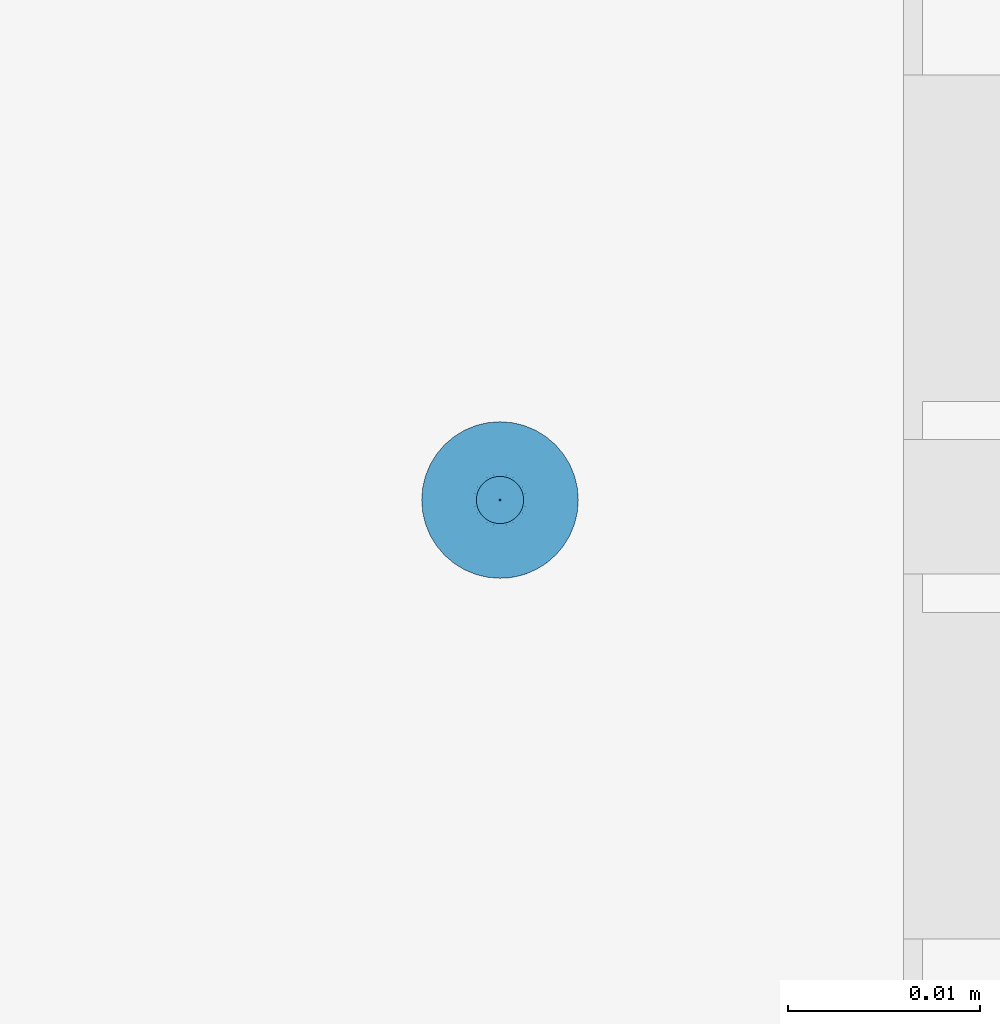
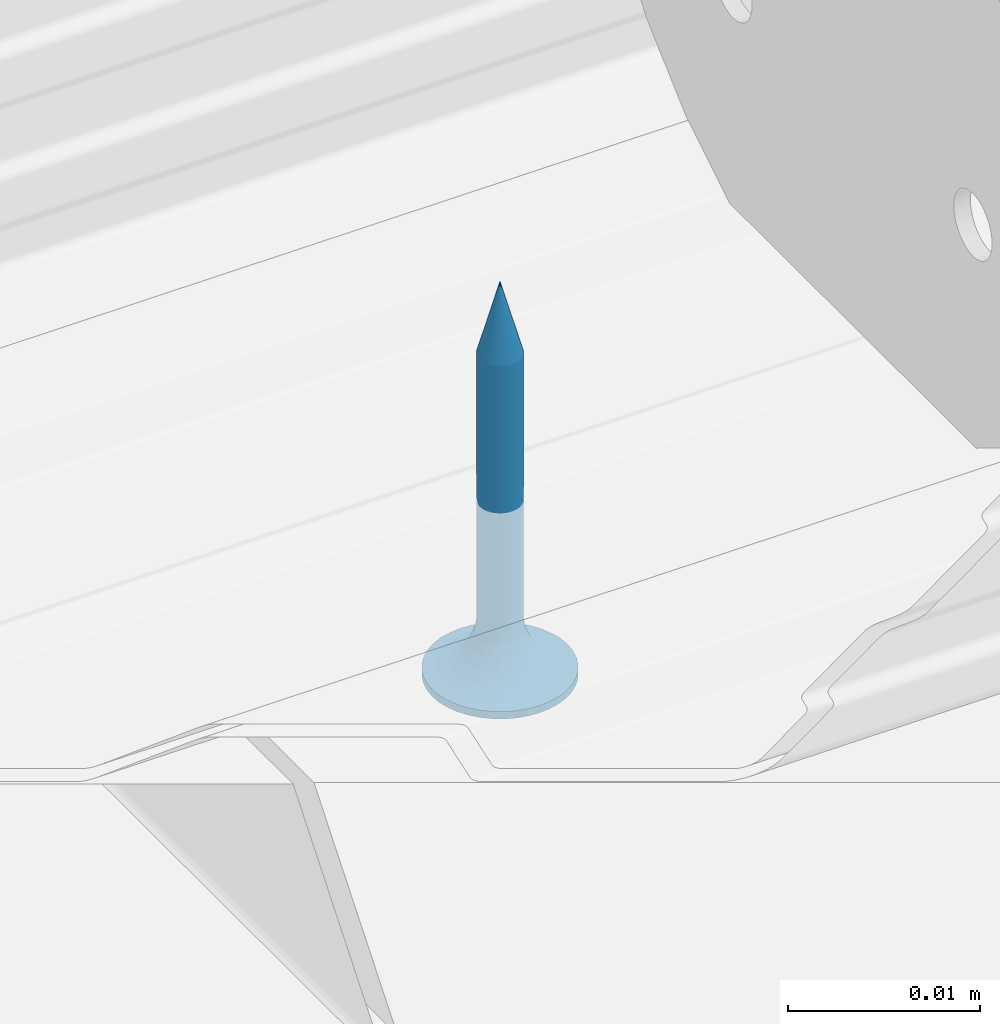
# One storey, part 58 of 73: 1 slab.
"""IFC2X3 building model written with IfcOpenShell, lengths in millimetres."""

from ifc_helpers import new_model, entity, si_unit, converted_unit, direction, frame, origin, origin_with_axes, place, context, project, spatial, faceted_brep, element, save


model = new_model("IFC2X3")

# Units and contexts
model_context = context("Model", 3, precision=1e-05, world=origin(), true_north=direction((0.0, 1.0, 0.0)))
ifc_project = project(units=[si_unit("LENGTHUNIT", "METRE", prefix="MILLI"), si_unit("AREAUNIT", "SQUARE_METRE"), si_unit("VOLUMEUNIT", "CUBIC_METRE"), converted_unit("PLANEANGLEUNIT", "DEGREE", entity("IfcPlaneAngleMeasure", 0.01745), si_unit("PLANEANGLEUNIT", "RADIAN"), dimensions=[0, 0, 0, 0, 0, 0, 0]), si_unit("SOLIDANGLEUNIT", "STERADIAN"), si_unit("MASSUNIT", "GRAM"), si_unit("TIMEUNIT", "SECOND"), si_unit("THERMODYNAMICTEMPERATUREUNIT", "DEGREE_CELSIUS"), si_unit("LUMINOUSINTENSITYUNIT", "LUMEN")], contexts=[model_context])

# Site, building, storey
site_placement = place(None, origin_with_axes())
site = spatial("IfcSite", under=ifc_project, at=site_placement, Name="Default Site", CompositionType="ELEMENT")
building_placement = place(site_placement, origin_with_axes())
building = spatial("IfcBuilding", under=site, at=building_placement, Name="Default Building", CompositionType="ELEMENT")
storey_placement = place(building_placement, origin_with_axes())
storey = spatial("IfcBuildingStorey", under=building, at=storey_placement, Name="Default Building Storey", CompositionType="ELEMENT", Elevation=0.0)

# Slab
slab_placement = place(storey_placement, frame((3076.910091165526, 462.0263716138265, 4373.006162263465), z_axis=(0.0, 1.0, 2.220446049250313e-16), x_axis=(-1.0, -1.802054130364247e-31, 8.115730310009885e-16)))
element("IfcSlab", 1, at=slab_placement, inside=storey, Name="Wkręt RIGIPS TN 25", context=model_context, shape_type="Brep", body=[
    faceted_brep([(-138.4548091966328, -3387.475459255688, 555.0766594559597), (-138.3293964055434, -3387.475459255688, 554.929819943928), (-138.3293964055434, -3370.55807436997, 554.929819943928), (-138.4548091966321, -3370.55807436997, 555.0766594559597), (-137.83949897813, -3370.55807436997, 554.6296104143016), (-137.8394989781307, -3387.475459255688, 554.6296104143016), (-137.6517277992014, -3387.475459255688, 554.5845305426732), (-137.6517277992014, -3370.55807436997, 554.5845305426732), (-137.4592163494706, -3370.55807436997, 554.5693795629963), (-137.4592163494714, -3387.475459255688, 554.5693795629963), (-137.2667048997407, -3387.475459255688, 554.5845305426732), (-137.2667048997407, -3370.55807436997, 554.5845305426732), (-136.7358758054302, -3370.55807436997, 556.7955928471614), (-136.7358758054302, -3387.475459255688, 556.7955928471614), (-136.9005263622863, -3387.475459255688, 556.8964908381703), (-136.9005263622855, -3370.55807436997, 556.8964908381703), (-138.1825568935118, -3370.55807436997, 554.804407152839), (-138.1825568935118, -3387.475459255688, 554.804407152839), (-138.0179063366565, -3387.475459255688, 554.7035091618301), (-138.0179063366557, -3370.55807436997, 554.7035091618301), (-137.2667048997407, -3370.55807436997, 557.0154694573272), (-137.2667048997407, -3387.475459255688, 557.0154694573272), (-137.4592163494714, -3387.475459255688, 557.0306204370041), (-137.4592163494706, -3370.55807436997, 557.0306204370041), (-137.6517277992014, -3387.475459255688, 557.0154694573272), (-137.6517277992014, -3370.55807436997, 557.0154694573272), (-136.4636235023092, -3370.55807436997, 555.0766594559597), (-136.5890362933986, -3370.55807436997, 554.929819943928), (-136.5890362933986, -3387.475459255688, 554.929819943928), (-136.4636235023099, -3387.475459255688, 555.0766594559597), (-136.2437468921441, -3370.55807436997, 555.6074885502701), (-136.2888267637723, -3370.55807436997, 555.4197173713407), (-136.2888267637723, -3387.475459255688, 555.4197173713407), (-136.2437468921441, -3387.475459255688, 555.6074885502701), (-138.0179063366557, -3370.55807436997, 556.8964908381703), (-138.0179063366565, -3387.475459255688, 556.8964908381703), (-138.1825568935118, -3387.475459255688, 556.7955928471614), (-138.1825568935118, -3370.55807436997, 556.7955928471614), (-138.5557071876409, -3387.475459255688, 555.2413100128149), (-138.5557071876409, -3370.55807436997, 555.2413100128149), (-136.2285959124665, -3370.55807436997, 555.8000000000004), (-136.2285959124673, -3387.475459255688, 555.8000000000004), (-136.9005263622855, -3370.55807436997, 554.7035091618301), (-136.9005263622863, -3387.475459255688, 554.7035091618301), (-136.7358758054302, -3387.475459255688, 554.804407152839), (-136.7358758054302, -3370.55807436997, 554.804407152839), (-138.6898367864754, -3387.475459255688, 555.8000000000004), (-138.6746858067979, -3387.475459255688, 555.6074885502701), (-138.6746858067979, -3370.55807436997, 555.6074885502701), (-138.6898367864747, -3370.55807436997, 555.8000000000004), (-137.83949897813, -3370.55807436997, 556.9703895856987), (-137.8394989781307, -3387.475459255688, 556.9703895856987), (-136.5890362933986, -3370.55807436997, 556.6701800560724), (-136.5890362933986, -3387.475459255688, 556.6701800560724), (-138.6296059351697, -3387.475459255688, 555.4197173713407), (-138.6296059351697, -3370.55807436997, 555.4197173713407), (-136.3627255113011, -3370.55807436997, 555.2413100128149), (-136.3627255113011, -3387.475459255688, 555.2413100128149), (-136.2437468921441, -3370.55807436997, 555.9925114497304), (-136.2437468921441, -3387.475459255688, 555.9925114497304), (-137.078933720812, -3387.475459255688, 554.6296104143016), (-137.0789337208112, -3370.55807436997, 554.6296104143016), (-138.6746858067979, -3387.475459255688, 555.9925114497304), (-138.6746858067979, -3370.55807436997, 555.9925114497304), (-138.6296059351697, -3387.475459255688, 556.1802826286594), (-138.6296059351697, -3370.55807436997, 556.1802826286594), (-136.4636235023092, -3370.55807436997, 556.5233405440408), (-136.4636235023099, -3387.475459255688, 556.5233405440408), (-136.3627255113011, -3370.55807436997, 556.3586899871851), (-136.3627255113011, -3387.475459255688, 556.3586899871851), (-138.3293964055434, -3387.475459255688, 556.6701800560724), (-138.3293964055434, -3370.55807436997, 556.6701800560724), (-136.2888267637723, -3370.55807436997, 556.1802826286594), (-136.2888267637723, -3387.475459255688, 556.1802826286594), (-137.078933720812, -3387.475459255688, 556.9703895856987), (-137.0789337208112, -3370.55807436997, 556.9703895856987), (-138.4548091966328, -3387.475459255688, 556.5233405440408), (-138.4548091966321, -3370.55807436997, 556.5233405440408), (-138.5557071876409, -3387.475459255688, 556.3586899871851), (-138.5557071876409, -3370.55807436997, 556.3586899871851), (-141.5377463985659, -3390.556721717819, 555.8000000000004), (-141.5377463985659, -3391.020944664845, 555.8000000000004), (-141.4875329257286, -3391.020944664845, 555.1619773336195), (-141.4875329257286, -3390.556721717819, 555.1619773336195), (-141.338128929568, -3391.020944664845, 554.5396649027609), (-141.338128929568, -3390.556721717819, 554.5396649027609), (-141.0932132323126, -3391.020944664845, 553.9483861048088), (-141.0932132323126, -3390.556721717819, 553.9483861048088), (-140.7588164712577, -3391.020944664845, 553.4027001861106), (-140.7588164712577, -3390.556721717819, 553.4027001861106), (-140.3431726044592, -3391.020944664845, 552.9160437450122), (-140.4541727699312, -3390.556721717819, 553.0314907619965), (-140.1080097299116, -3390.556721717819, 552.6986614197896), (-139.8565161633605, -3391.020944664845, 552.5003998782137), (-139.7251262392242, -3390.556721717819, 552.4088262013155), (-139.3108302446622, -3391.020944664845, 552.1660031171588), (-139.3108302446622, -3390.556721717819, 552.1660031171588), (-138.8708651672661, -3390.556721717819, 551.9735584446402), (-138.7195514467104, -3391.020944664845, 551.9210874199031), (-138.4113302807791, -3390.556721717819, 551.8341600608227), (-137.9385961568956, -3390.556721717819, 551.7497404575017), (-138.0972390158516, -3391.020944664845, 551.7716834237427), (-137.4592163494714, -3391.020944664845, 551.7214699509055), (-137.4592163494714, -3390.556721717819, 551.7214699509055), (-136.8211936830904, -3391.020944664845, 551.7716834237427), (-136.8211936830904, -3390.556721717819, 551.7716834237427), (-136.1988812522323, -3391.020944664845, 551.9210874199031), (-136.1988812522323, -3390.556721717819, 551.9210874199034), (-135.6076024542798, -3391.020944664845, 552.1660031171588), (-135.6076024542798, -3390.556721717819, 552.1660031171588), (-135.0619165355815, -3391.020944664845, 552.5003998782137), (-135.0619165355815, -3390.556721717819, 552.5003998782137), (-134.5752600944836, -3391.020944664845, 552.9160437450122), (-134.5752600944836, -3390.556721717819, 552.9160437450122), (-134.1596162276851, -3391.020944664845, 553.4027001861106), (-134.1596162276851, -3390.556721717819, 553.4027001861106), (-133.8252194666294, -3391.020944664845, 553.9483861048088), (-133.8252194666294, -3390.556721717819, 553.9483861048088), (-133.580303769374, -3391.020944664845, 554.5396649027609), (-133.580303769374, -3390.556721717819, 554.5396649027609), (-133.4308997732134, -3391.020944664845, 556.4380226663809), (-133.4308997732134, -3390.556721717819, 556.4380226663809), (-133.3806863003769, -3390.556721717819, 555.8000000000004), (-133.3806863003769, -3391.020944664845, 555.8000000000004), (-133.4308997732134, -3390.556721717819, 555.1619773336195), (-133.4308997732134, -3391.020944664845, 555.1619773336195), (-133.580303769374, -3391.020944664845, 557.0603350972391), (-133.580303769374, -3390.556721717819, 557.0603350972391), (-133.8252194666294, -3391.020944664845, 557.6516138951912), (-133.8252194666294, -3390.556721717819, 557.6516138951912), (-134.1596162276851, -3391.020944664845, 558.1972998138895), (-134.1596162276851, -3390.556721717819, 558.1972998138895), (-134.5752600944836, -3391.020944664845, 558.6839562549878), (-134.5752600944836, -3390.556721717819, 558.6839562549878), (-135.0619165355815, -3391.020944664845, 559.0996001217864), (-135.0619165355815, -3390.556721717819, 559.0996001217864), (-135.6076024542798, -3391.020944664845, 559.4339968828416), (-135.6076024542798, -3390.556721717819, 559.4339968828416), (-136.1988812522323, -3391.020944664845, 559.678912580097), (-136.1988812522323, -3390.556721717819, 559.678912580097), (-136.8211936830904, -3391.020944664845, 559.8283165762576), (-136.8211936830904, -3390.556721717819, 559.8283165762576), (-137.4592163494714, -3391.020944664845, 559.8785300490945), (-137.4592163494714, -3390.556721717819, 559.8785300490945), (-138.0972390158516, -3391.020944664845, 559.8283165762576), (-138.0972390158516, -3390.556721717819, 559.8283165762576), (-138.7195514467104, -3391.020944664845, 559.678912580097), (-138.7195514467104, -3390.556721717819, 559.678912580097), (-139.3108302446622, -3391.020944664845, 559.4339968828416), (-139.3108302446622, -3390.556721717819, 559.4339968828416), (-139.8565161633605, -3391.020944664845, 559.0996001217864), (-139.8565161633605, -3390.556721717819, 559.0996001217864), (-140.3431726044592, -3391.020944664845, 558.6839562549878), (-140.3431726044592, -3390.556721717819, 558.6839562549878), (-140.7588164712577, -3391.020944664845, 558.1972998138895), (-140.7588164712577, -3390.556721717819, 558.1972998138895), (-141.0932132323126, -3391.020944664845, 557.6516138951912), (-141.0932132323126, -3390.556721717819, 557.6516138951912), (-141.338128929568, -3391.020944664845, 557.0603350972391), (-141.338128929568, -3390.556721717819, 557.0603350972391), (-141.4875329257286, -3391.020944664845, 556.4380226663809), (-141.4875329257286, -3390.556721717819, 556.4380226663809), (-137.8060615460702, -3388.229732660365, 554.5055560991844), (-137.4592163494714, -3388.229732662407, 554.4598930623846), (-138.1292698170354, -3388.229732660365, 554.6394333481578), (-138.4068150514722, -3388.229732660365, 554.8524012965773), (-138.6197830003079, -3388.229732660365, 555.1299465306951), (-138.7536602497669, -3388.229732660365, 555.4531548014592), (-138.7993232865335, -3388.229732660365, 555.7999999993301), (-138.7536602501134, -3388.229732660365, 556.1468451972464), (-138.6197830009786, -3388.229732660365, 556.4700534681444), (-138.4068150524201, -3388.229732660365, 556.7475987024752), (-138.1292698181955, -3388.229732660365, 556.9605666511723), (-137.8060615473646, -3388.229732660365, 557.0944439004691), (-137.4592163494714, -3388.229732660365, 557.1401069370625), (-137.1123711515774, -3388.229732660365, 557.0944439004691), (-136.7891628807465, -3388.229732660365, 556.9605666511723), (-136.5116176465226, -3388.229732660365, 556.7475987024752), (-136.2986496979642, -3388.229732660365, 556.4700534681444), (-136.1647724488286, -3388.229732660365, 556.1468451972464), (-136.1191094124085, -3388.229732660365, 555.7999999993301), (-136.1647724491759, -3388.229732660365, 555.4531548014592), (-136.2986496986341, -3388.229732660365, 555.1299465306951), (-136.5116176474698, -3388.229732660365, 554.8524012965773), (-136.7891628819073, -3388.229732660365, 554.6394333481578), (-137.1123711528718, -3388.229732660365, 554.5055560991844), (-137.4592163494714, -3388.936142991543, 554.1737111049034), (-137.8801308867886, -3388.936142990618, 554.2291255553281), (-138.2723607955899, -3388.936142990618, 554.3915925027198), (-138.6091762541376, -3388.936142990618, 554.6500400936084), (-138.8676238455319, -3388.936142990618, 554.9868555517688), (-139.0300907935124, -3388.936142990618, 555.3790854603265), (-139.0855052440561, -3388.936142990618, 555.7999999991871), (-139.0300907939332, -3388.936142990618, 556.2209145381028), (-138.8676238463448, -3388.936142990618, 556.6131444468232), (-138.6091762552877, -3388.936142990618, 556.949959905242), (-138.2723607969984, -3388.936142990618, 557.2084074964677), (-137.8801308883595, -3388.936142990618, 557.3708744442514), (-137.4592163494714, -3388.936142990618, 557.4262888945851), (-137.0383018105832, -3388.936142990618, 557.3708744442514), (-136.6460719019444, -3388.936142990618, 557.2084074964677), (-136.3092564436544, -3388.936142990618, 556.949959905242), (-136.0508088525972, -3388.936142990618, 556.6131444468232), (-135.8883419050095, -3388.936142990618, 556.2209145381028), (-135.8329274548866, -3388.936142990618, 555.7999999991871), (-135.8883419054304, -3388.936142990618, 555.3790854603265), (-136.0508088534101, -3388.936142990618, 554.9868555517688), (-136.3092564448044, -3388.936142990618, 554.6500400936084), (-136.6460719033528, -3388.936142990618, 554.3915925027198), (-137.0383018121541, -3388.936142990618, 554.2291255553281), (-137.4592163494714, -3389.553938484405, 553.727343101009), (-137.9956594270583, -3389.553938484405, 553.7979671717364), (-138.4955447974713, -3389.553938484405, 554.005026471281), (-138.9248060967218, -3389.553938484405, 554.334410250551), (-139.2541898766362, -3389.553938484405, 554.7636715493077), (-139.46124917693, -3389.553938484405, 555.2635569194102), (-139.5318732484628, -3389.553938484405, 555.7999999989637), (-139.4612491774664, -3389.553938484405, 556.3364430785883), (-139.2541898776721, -3389.553938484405, 556.8363284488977), (-138.9248060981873, -3389.553938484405, 557.2655897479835), (-138.495544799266, -3389.553938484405, 557.5949735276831), (-137.9956594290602, -3389.553938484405, 557.8020328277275), (-137.4592163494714, -3389.553938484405, 557.8726568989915), (-136.9227732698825, -3389.553938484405, 557.8020328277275), (-136.422887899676, -3389.553938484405, 557.5949735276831), (-135.9936266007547, -3389.553938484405, 557.2655897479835), (-135.6642428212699, -3389.553938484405, 556.8363284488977), (-135.4571835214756, -3389.553938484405, 556.3364430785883), (-135.3865594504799, -3389.553938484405, 555.7999999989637), (-135.457183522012, -3389.553938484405, 555.2635569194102), (-135.6642428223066, -3389.553938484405, 554.7636715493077), (-135.9936266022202, -3389.553938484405, 554.334410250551), (-136.4228879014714, -3389.553938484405, 554.005026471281), (-136.9227732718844, -3389.553938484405, 553.7979671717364), (-137.4592163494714, -3390.04747944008, 553.1465393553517), (-138.1459824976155, -3390.047479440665, 553.2369538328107), (-138.7859466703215, -3390.047479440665, 553.5020356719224), (-139.3354963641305, -3390.047479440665, 553.9237199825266), (-139.757180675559, -3390.047479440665, 554.4732696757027), (-140.0222625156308, -3390.047479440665, 555.1132338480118), (-140.1126769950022, -3390.047479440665, 555.7999999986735), (-140.0222625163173, -3390.047479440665, 556.4867661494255), (-139.7571806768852, -3390.047479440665, 557.1267303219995), (-139.3354963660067, -3390.047479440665, 557.6762800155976), (-138.7859466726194, -3390.047479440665, 558.0979643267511), (-138.1459825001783, -3390.047479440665, 558.3630461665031), (-137.4592163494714, -3390.047479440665, 558.4534606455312), (-136.7724501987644, -3390.047479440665, 558.3630461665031), (-136.1324860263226, -3390.047479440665, 558.0979643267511), (-135.5829363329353, -3390.047479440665, 557.6762800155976), (-135.1612520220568, -3390.047479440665, 557.1267303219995), (-134.8961701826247, -3390.047479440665, 556.4867661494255), (-134.8057557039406, -3390.047479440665, 555.7999999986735), (-134.8961701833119, -3390.047479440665, 555.1132338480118), (-135.1612520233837, -3390.047479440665, 554.4732696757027), (-135.5829363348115, -3390.047479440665, 553.9237199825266), (-136.1324860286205, -3390.047479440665, 553.5020356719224), (-136.7724502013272, -3390.047479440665, 553.2369538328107), (-137.4592163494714, -3390.388294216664, 552.4648055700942), (-138.3224281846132, -3390.388294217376, 552.5784495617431), (-139.1268135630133, -3390.388294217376, 552.9116368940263), (-139.8175549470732, -3390.388294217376, 553.4416613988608), (-140.3475794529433, -3390.388294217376, 554.1324027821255), (-140.6807667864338, -3390.388294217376, 554.9367881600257), (-140.7944107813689, -3390.388294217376, 555.7999999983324), (-140.6807667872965, -3390.388294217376, 556.6632118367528), (-140.3475794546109, -3390.388294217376, 557.4675972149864), (-139.8175549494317, -3390.388294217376, 558.1583385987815), (-139.1268135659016, -3390.388294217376, 558.6883631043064), (-138.3224281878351, -3390.388294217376, 559.0215504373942), (-137.4592163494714, -3390.388294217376, 559.1351944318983), (-136.5960045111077, -3390.388294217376, 559.0215504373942), (-135.7916191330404, -3390.388294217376, 558.6883631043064), (-135.1008777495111, -3390.388294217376, 558.1583385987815), (-134.5708532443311, -3390.388294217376, 557.4675972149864), (-134.2376659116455, -3390.388294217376, 556.6632118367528), (-134.1240219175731, -3390.388294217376, 555.7999999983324), (-134.2376659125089, -3390.388294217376, 554.9367881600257), (-134.5708532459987, -3390.388294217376, 554.1324027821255), (-135.1008777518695, -3390.388294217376, 553.4416613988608), (-135.7916191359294, -3390.388294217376, 552.9116368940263), (-136.5960045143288, -3390.388294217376, 552.5784495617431), (-137.4592163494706, -3366.021033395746, 555.8000000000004), (-139.9592163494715, -3391.020944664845, 556.3000000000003), (-137.9592163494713, -3391.020944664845, 556.3000000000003), (-139.9592163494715, -3391.020944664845, 555.3000000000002), (-137.9592163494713, -3391.020944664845, 555.3000000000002), (-137.9592163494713, -3391.020944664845, 553.3000000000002), (-136.9592163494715, -3391.020944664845, 553.3000000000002), (-136.9592163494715, -3391.020944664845, 555.3000000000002), (-134.9592163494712, -3391.020944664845, 555.3000000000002), (-134.9592163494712, -3391.020944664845, 556.3000000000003), (-136.9592163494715, -3391.020944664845, 556.3000000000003), (-136.9592163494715, -3391.020944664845, 558.3000000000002), (-137.9592163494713, -3391.020944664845, 558.3000000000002), (-136.9592163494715, -3390.128974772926, 556.3000000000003), (-134.9592163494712, -3390.128974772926, 556.3000000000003), (-134.9592163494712, -3390.128974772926, 555.3000000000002), (-136.9592163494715, -3390.128974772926, 555.3000000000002), (-136.9592163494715, -3390.128974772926, 553.3000000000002), (-137.9592163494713, -3390.128974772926, 553.3000000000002), (-137.9592163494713, -3390.128974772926, 555.3000000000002), (-139.9592163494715, -3390.128974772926, 555.3000000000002), (-139.9592163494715, -3390.128974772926, 556.3000000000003), (-137.9592163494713, -3390.128974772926, 556.3000000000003), (-137.9592163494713, -3390.128974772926, 558.3000000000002), (-136.9592163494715, -3390.128974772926, 558.3000000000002)], [[[0, 1, 2, 3]], [[4, 5, 6, 7]], [[8, 9, 10, 11]], [[7, 6, 9, 8]], [[12, 13, 14, 15]], [[16, 17, 18, 19]], [[20, 21, 22, 23]], [[23, 22, 24, 25]], [[26, 27, 28, 29]], [[30, 31, 32, 33]], [[34, 35, 36, 37]], [[38, 0, 3, 39]], [[40, 30, 33, 41]], [[42, 43, 44, 45]], [[46, 47, 48, 49]], [[50, 51, 35, 34]], [[52, 53, 13, 12]], [[54, 38, 39, 55]], [[56, 26, 29, 57]], [[58, 40, 41, 59]], [[11, 10, 60, 61]], [[45, 44, 28, 27]], [[31, 56, 57, 32]], [[62, 46, 49, 63]], [[64, 62, 63, 65]], [[25, 24, 51, 50]], [[52, 66, 67, 53]], [[66, 68, 69, 67]], [[37, 36, 70, 71]], [[72, 58, 59, 73]], [[15, 14, 74, 75]], [[19, 18, 5, 4]], [[70, 76, 77, 71]], [[61, 60, 43, 42]], [[2, 1, 17, 16]], [[47, 54, 55, 48]], [[75, 74, 21, 20]], [[78, 64, 65, 79]], [[76, 78, 79, 77]], [[68, 72, 73, 69]], [[80, 81, 82, 83]], [[84, 85, 83, 82]], [[86, 87, 85, 84]], [[87, 86, 88, 89]], [[88, 90, 89]], [[90, 91, 89]], [[92, 91, 93]], [[91, 90, 93]], [[93, 94, 92]], [[93, 95, 94]], [[95, 96, 94]], [[97, 96, 98]], [[96, 95, 98]], [[98, 99, 97]], [[100, 99, 101]], [[99, 98, 101]], [[101, 102, 100]], [[102, 103, 100]], [[103, 102, 104, 105]], [[106, 107, 105, 104]], [[108, 109, 107, 106]], [[109, 108, 110, 111]], [[112, 113, 111, 110]], [[113, 112, 114, 115]], [[116, 117, 115, 114]], [[118, 119, 117, 116]], [[120, 121, 122, 123]], [[123, 122, 124, 125]], [[119, 118, 125, 124]], [[126, 127, 121, 120]], [[128, 129, 127, 126]], [[129, 128, 130, 131]], [[132, 133, 131, 130]], [[133, 132, 134, 135]], [[136, 137, 135, 134]], [[138, 139, 137, 136]], [[139, 138, 140, 141]], [[142, 143, 141, 140]], [[143, 142, 144, 145]], [[146, 147, 145, 144]], [[148, 149, 147, 146]], [[149, 148, 150, 151]], [[152, 153, 151, 150]], [[153, 152, 154, 155]], [[156, 157, 155, 154]], [[158, 159, 157, 156]], [[159, 158, 160, 161]], [[81, 80, 161, 160]], [[162, 9, 6]], [[162, 163, 9]], [[6, 5, 162]], [[162, 5, 164]], [[18, 164, 5]], [[164, 18, 17]], [[17, 165, 164]], [[17, 1, 165]], [[166, 1, 0]], [[166, 165, 1]], [[0, 38, 166]], [[166, 38, 167]], [[54, 167, 38]], [[167, 54, 47]], [[47, 168, 167]], [[47, 46, 168]], [[169, 46, 62]], [[169, 168, 46]], [[62, 64, 169]], [[169, 64, 170]], [[78, 170, 64]], [[170, 78, 76]], [[76, 171, 170]], [[76, 70, 171]], [[172, 70, 36]], [[172, 171, 70]], [[36, 35, 172]], [[172, 35, 173]], [[51, 173, 35]], [[173, 51, 24]], [[24, 174, 173]], [[24, 22, 174]], [[175, 22, 21]], [[175, 174, 22]], [[21, 74, 175]], [[175, 74, 176]], [[14, 176, 74]], [[176, 14, 13]], [[13, 177, 176]], [[13, 53, 177]], [[178, 53, 67]], [[178, 177, 53]], [[67, 69, 178]], [[178, 69, 179]], [[73, 179, 69]], [[179, 73, 59]], [[59, 180, 179]], [[59, 41, 180]], [[181, 41, 33]], [[181, 180, 41]], [[33, 32, 181]], [[181, 32, 182]], [[57, 182, 32]], [[182, 57, 29]], [[29, 183, 182]], [[29, 28, 183]], [[184, 28, 44]], [[184, 183, 28]], [[44, 43, 184]], [[184, 43, 185]], [[60, 185, 43]], [[185, 60, 10]], [[10, 163, 185]], [[10, 9, 163]], [[186, 163, 187]], [[162, 187, 163]], [[164, 188, 187, 162]], [[165, 189, 188, 164]], [[166, 190, 189, 165]], [[167, 191, 190, 166]], [[168, 192, 191, 167]], [[169, 193, 192, 168]], [[170, 194, 193, 169]], [[171, 195, 194, 170]], [[172, 196, 195, 171]], [[173, 197, 196, 172]], [[174, 198, 197, 173]], [[175, 199, 198, 174]], [[176, 200, 199, 175]], [[177, 201, 200, 176]], [[178, 202, 201, 177]], [[179, 203, 202, 178]], [[180, 204, 203, 179]], [[181, 205, 204, 180]], [[182, 206, 205, 181]], [[183, 207, 206, 182]], [[184, 208, 207, 183]], [[185, 209, 208, 184]], [[185, 163, 209]], [[186, 209, 163]], [[210, 186, 211]], [[187, 211, 186]], [[188, 212, 211, 187]], [[189, 213, 212, 188]], [[190, 214, 213, 189]], [[191, 215, 214, 190]], [[192, 216, 215, 191]], [[193, 217, 216, 192]], [[194, 218, 217, 193]], [[195, 219, 218, 194]], [[196, 220, 219, 195]], [[197, 221, 220, 196]], [[198, 222, 221, 197]], [[199, 223, 222, 198]], [[200, 224, 223, 199]], [[201, 225, 224, 200]], [[202, 226, 225, 201]], [[203, 227, 226, 202]], [[204, 228, 227, 203]], [[205, 229, 228, 204]], [[206, 230, 229, 205]], [[207, 231, 230, 206]], [[208, 232, 231, 207]], [[209, 233, 232, 208]], [[209, 186, 233]], [[210, 233, 186]], [[234, 210, 235]], [[211, 235, 210]], [[212, 236, 235, 211]], [[213, 237, 236, 212]], [[214, 238, 237, 213]], [[215, 239, 238, 214]], [[216, 240, 239, 215]], [[217, 241, 240, 216]], [[218, 242, 241, 217]], [[219, 243, 242, 218]], [[220, 244, 243, 219]], [[221, 245, 244, 220]], [[222, 246, 245, 221]], [[223, 247, 246, 222]], [[224, 248, 247, 223]], [[225, 249, 248, 224]], [[226, 250, 249, 225]], [[227, 251, 250, 226]], [[228, 252, 251, 227]], [[229, 253, 252, 228]], [[230, 254, 253, 229]], [[231, 255, 254, 230]], [[232, 256, 255, 231]], [[233, 257, 256, 232]], [[233, 210, 257]], [[234, 257, 210]], [[258, 99, 100]], [[258, 259, 99]], [[100, 103, 258]], [[258, 234, 259]], [[235, 259, 234]], [[259, 96, 97]], [[259, 260, 96]], [[97, 99, 259]], [[236, 260, 259, 235]], [[261, 91, 92]], [[260, 92, 94]], [[260, 261, 92]], [[94, 96, 260]], [[237, 261, 260, 236]], [[262, 87, 89]], [[89, 261, 262]], [[89, 91, 261]], [[238, 262, 261, 237]], [[85, 87, 263]], [[262, 263, 87]], [[239, 263, 262, 238]], [[263, 80, 83]], [[263, 264, 80]], [[83, 85, 263]], [[240, 264, 263, 239]], [[265, 159, 161]], [[161, 264, 265]], [[161, 80, 264]], [[241, 265, 264, 240]], [[265, 266, 157, 159]], [[242, 266, 265, 241]], [[266, 153, 155]], [[266, 267, 153]], [[155, 157, 266]], [[243, 267, 266, 242]], [[268, 149, 151]], [[151, 267, 268]], [[151, 153, 267]], [[244, 268, 267, 243]], [[268, 269, 147, 149]], [[245, 269, 268, 244]], [[269, 143, 145]], [[269, 270, 143]], [[145, 147, 269]], [[246, 270, 269, 245]], [[271, 139, 141]], [[141, 270, 271]], [[141, 143, 270]], [[247, 271, 270, 246]], [[271, 272, 137, 139]], [[248, 272, 271, 247]], [[272, 133, 135]], [[272, 273, 133]], [[135, 137, 272]], [[249, 273, 272, 248]], [[274, 129, 131]], [[131, 273, 274]], [[131, 133, 273]], [[250, 274, 273, 249]], [[274, 275, 127, 129]], [[251, 275, 274, 250]], [[275, 122, 121]], [[275, 276, 122]], [[121, 127, 275]], [[252, 276, 275, 251]], [[277, 119, 124]], [[124, 276, 277]], [[124, 122, 276]], [[253, 277, 276, 252]], [[117, 119, 278]], [[277, 278, 119]], [[254, 278, 277, 253]], [[278, 113, 115]], [[278, 279, 113]], [[115, 117, 278]], [[255, 279, 278, 254]], [[280, 109, 111]], [[111, 279, 280]], [[111, 113, 279]], [[256, 280, 279, 255]], [[107, 109, 281]], [[280, 281, 109]], [[257, 281, 280, 256]], [[257, 234, 281]], [[258, 281, 234]], [[281, 103, 105]], [[281, 258, 103]], [[105, 107, 281]], [[48, 55, 282]], [[282, 49, 48]], [[55, 39, 282]], [[3, 2, 282]], [[282, 39, 3]], [[16, 19, 282]], [[282, 2, 16]], [[19, 4, 282]], [[7, 8, 282]], [[282, 4, 7]], [[11, 61, 282]], [[282, 8, 11]], [[61, 42, 282]], [[45, 27, 282]], [[282, 42, 45]], [[26, 56, 282]], [[282, 27, 26]], [[56, 31, 282]], [[30, 40, 282]], [[282, 31, 30]], [[58, 72, 282]], [[282, 40, 58]], [[72, 68, 282]], [[66, 52, 282]], [[282, 68, 66]], [[12, 15, 282]], [[282, 52, 12]], [[15, 75, 282]], [[20, 23, 282]], [[282, 75, 20]], [[25, 50, 282]], [[282, 23, 25]], [[50, 34, 282]], [[37, 71, 282]], [[282, 34, 37]], [[77, 79, 282]], [[282, 71, 77]], [[79, 65, 282]], [[63, 49, 282]], [[282, 65, 63]], [[283, 156, 154, 284]], [[283, 285, 286, 287, 288, 289, 290, 291, 292, 293, 294, 284, 154, 152, 150, 148, 146, 144, 142, 140, 138, 136, 134, 132, 130, 128, 126, 120, 123, 125, 118, 116, 114, 112, 110, 108, 106, 104, 102, 101, 98, 95, 93, 90, 88, 86, 84, 82, 81, 160, 158, 156]], [[295, 296, 297, 298, 299, 300, 301, 302, 303, 304, 305, 306]], [[297, 290, 289, 298]], [[296, 291, 290, 297]], [[295, 292, 291, 296]], [[306, 293, 292, 295]], [[305, 294, 293, 306]], [[304, 284, 294, 305]], [[303, 283, 284, 304]], [[302, 285, 283, 303]], [[301, 286, 285, 302]], [[300, 287, 286, 301]], [[299, 288, 287, 300]], [[298, 289, 288, 299]]]),
])

save(model, "model.ifc")
